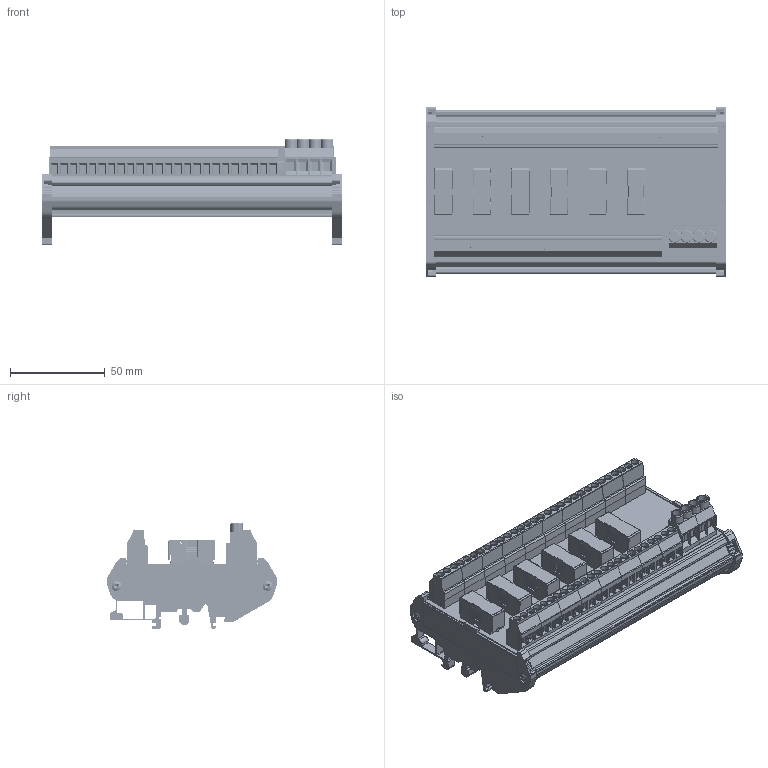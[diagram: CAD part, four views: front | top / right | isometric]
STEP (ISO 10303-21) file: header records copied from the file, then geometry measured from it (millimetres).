
FILE_DESCRIPTION(/* description */ (''),/* implementation_level */ '2;1');
FILE_NAME(/* name */ 'C:/Temp/STEP/FX-FBL_V100.step',/* time_stamp */ '2020-04-03T13:47:45+03:00',/* author */ (''),/* organization */ (''),/* preprocessor_version */ 'ST-DEVELOPER v18',/* originating_system */ 'Autodesk Translation Framework v8.12.0.6',/* authorisation */ '');
FILE_SCHEMA (('AUTOMOTIVE_DESIGN { 1 0 10303 214 3 1 1 }'));
Products named in the file (1): FX-FBL_V100
Bounding box: 158 x 89.6 x 55.8 mm (x, y, z)
Volume: 132171.9 mm3; surface area: 139186.5 mm2
Topology: 40 solids, 40 shells, 6564 faces, 18460 edges, 12350 vertices
Faces by surface type: plane 4522, cylinder 1896, torus 60, sphere 52, cone 26, bspline 8
Full cylindrical faces by diameter (mm): 0.457 x20, 1.3 x116, 1.5 x12, 1.71 x36, 2.404 x4, 2.7 x6, 3 x2, 3.1 x4, 3.8 x54, 4 x54, 5 x4, 5.15 x4, 5.2 x4, 6 x4
Entity records: 278383 total; most frequent: CARTESIAN_POINT 98083, ORIENTED_EDGE 36864, DIRECTION 35564, EDGE_CURVE 18432, LINE 13310, VECTOR 13310, VERTEX_POINT 12350, AXIS2_PLACEMENT_3D 11127
